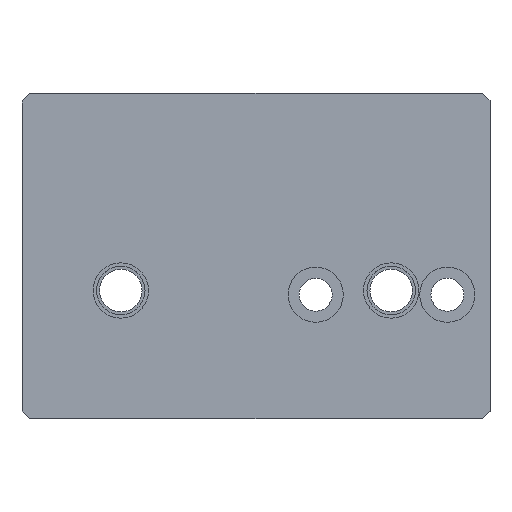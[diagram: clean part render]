
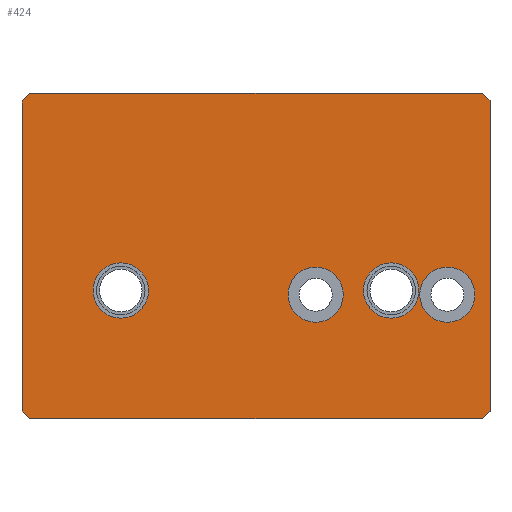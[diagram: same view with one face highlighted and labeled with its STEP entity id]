
A CAD part, top view. The second image highlights one B-rep face of the part: STEP entity #424.
In plain terms, the highlighted planar face has unit normal (0, 0, 1).
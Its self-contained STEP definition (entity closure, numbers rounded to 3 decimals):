
#21=FACE_BOUND('',#95,.T.);
#22=FACE_BOUND('',#96,.T.);
#23=FACE_BOUND('',#97,.T.);
#24=FACE_BOUND('',#98,.T.);
#36=PLANE('',#484);
#62=FACE_OUTER_BOUND('',#94,.T.);
#94=EDGE_LOOP('',(#345,#346,#347,#348,#349,#350,#351,#352));
#95=EDGE_LOOP('',(#353));
#96=EDGE_LOOP('',(#354));
#97=EDGE_LOOP('',(#355));
#98=EDGE_LOOP('',(#356));
#123=LINE('',#695,#157);
#125=LINE('',#699,#159);
#126=LINE('',#701,#160);
#127=LINE('',#703,#161);
#128=LINE('',#705,#162);
#129=LINE('',#707,#163);
#130=LINE('',#709,#164);
#131=LINE('',#710,#165);
#157=VECTOR('',#581,10.);
#159=VECTOR('',#585,10.);
#160=VECTOR('',#586,10.);
#161=VECTOR('',#587,10.);
#162=VECTOR('',#588,10.);
#163=VECTOR('',#589,10.);
#164=VECTOR('',#590,10.);
#165=VECTOR('',#591,10.);
#183=CIRCLE('',#454,3.563);
#185=CIRCLE('',#458,3.563);
#191=CIRCLE('',#469,3.575);
#197=CIRCLE('',#480,3.575);
#203=VERTEX_POINT('',#635);
#205=VERTEX_POINT('',#642);
#211=VERTEX_POINT('',#662);
#217=VERTEX_POINT('',#682);
#221=VERTEX_POINT('',#692);
#222=VERTEX_POINT('',#694);
#223=VERTEX_POINT('',#698);
#224=VERTEX_POINT('',#700);
#225=VERTEX_POINT('',#702);
#226=VERTEX_POINT('',#704);
#227=VERTEX_POINT('',#706);
#228=VERTEX_POINT('',#708);
#241=EDGE_CURVE('',#203,#203,#183,.T.);
#244=EDGE_CURVE('',#205,#205,#185,.T.);
#253=EDGE_CURVE('',#211,#211,#191,.T.);
#262=EDGE_CURVE('',#217,#217,#197,.T.);
#267=EDGE_CURVE('',#221,#222,#123,.T.);
#269=EDGE_CURVE('',#223,#221,#125,.T.);
#270=EDGE_CURVE('',#224,#223,#126,.T.);
#271=EDGE_CURVE('',#225,#224,#127,.T.);
#272=EDGE_CURVE('',#226,#225,#128,.T.);
#273=EDGE_CURVE('',#227,#226,#129,.T.);
#274=EDGE_CURVE('',#228,#227,#130,.T.);
#275=EDGE_CURVE('',#222,#228,#131,.T.);
#345=ORIENTED_EDGE('',*,*,#267,.F.);
#346=ORIENTED_EDGE('',*,*,#269,.F.);
#347=ORIENTED_EDGE('',*,*,#270,.F.);
#348=ORIENTED_EDGE('',*,*,#271,.F.);
#349=ORIENTED_EDGE('',*,*,#272,.F.);
#350=ORIENTED_EDGE('',*,*,#273,.F.);
#351=ORIENTED_EDGE('',*,*,#274,.F.);
#352=ORIENTED_EDGE('',*,*,#275,.F.);
#353=ORIENTED_EDGE('',*,*,#241,.T.);
#354=ORIENTED_EDGE('',*,*,#244,.T.);
#355=ORIENTED_EDGE('',*,*,#253,.T.);
#356=ORIENTED_EDGE('',*,*,#262,.T.);
#424=ADVANCED_FACE('',(#62,#21,#22,#23,#24),#36,.T.);
#454=AXIS2_PLACEMENT_3D('',#636,#511,#512);
#458=AXIS2_PLACEMENT_3D('',#643,#520,#521);
#469=AXIS2_PLACEMENT_3D('',#663,#545,#546);
#480=AXIS2_PLACEMENT_3D('',#683,#570,#571);
#484=AXIS2_PLACEMENT_3D('',#697,#583,#584);
#511=DIRECTION('center_axis',(0.,0.,-1.));
#512=DIRECTION('ref_axis',(0.,1.,0.));
#520=DIRECTION('center_axis',(0.,0.,-1.));
#521=DIRECTION('ref_axis',(0.,1.,0.));
#545=DIRECTION('center_axis',(0.,0.,-1.));
#546=DIRECTION('ref_axis',(0.,1.,0.));
#570=DIRECTION('center_axis',(0.,0.,-1.));
#571=DIRECTION('ref_axis',(0.,1.,0.));
#581=DIRECTION('',(0.707,-0.707,0.));
#583=DIRECTION('center_axis',(0.,0.,1.));
#584=DIRECTION('ref_axis',(0.,1.,0.));
#585=DIRECTION('',(1.,0.,0.));
#586=DIRECTION('',(0.707,0.707,0.));
#587=DIRECTION('',(0.,1.,0.));
#588=DIRECTION('',(-0.707,0.707,0.));
#589=DIRECTION('',(-1.,0.,0.));
#590=DIRECTION('',(-0.707,-0.707,0.));
#591=DIRECTION('',(0.,-1.,0.));
#635=CARTESIAN_POINT('',(22.5,-54.563,8.84));
#636=CARTESIAN_POINT('Origin',(22.5,-51.,8.84));
#642=CARTESIAN_POINT('',(5.5,-54.563,8.84));
#643=CARTESIAN_POINT('Origin',(5.5,-51.,8.84));
#662=CARTESIAN_POINT('',(15.25,-54.033,8.84));
#663=CARTESIAN_POINT('Origin',(15.25,-50.458,8.84));
#682=CARTESIAN_POINT('',(-19.65,-54.033,8.84));
#683=CARTESIAN_POINT('Origin',(-19.65,-50.458,8.84));
#692=CARTESIAN_POINT('',(27.,-25.,8.84));
#694=CARTESIAN_POINT('',(28.,-26.,8.84));
#695=CARTESIAN_POINT('',(26.513,-24.513,8.84));
#697=CARTESIAN_POINT('Origin',(-2.2,-51.25,8.84));
#698=CARTESIAN_POINT('',(-31.4,-25.,8.84));
#699=CARTESIAN_POINT('',(-2.2,-25.,8.84));
#700=CARTESIAN_POINT('',(-32.4,-26.,8.84));
#701=CARTESIAN_POINT('',(-30.913,-24.513,8.84));
#702=CARTESIAN_POINT('',(-32.4,-66.,8.84));
#703=CARTESIAN_POINT('',(-32.4,-51.25,8.84));
#704=CARTESIAN_POINT('',(-31.4,-67.,8.84));
#705=CARTESIAN_POINT('',(-27.788,-70.613,8.84));
#706=CARTESIAN_POINT('',(27.,-67.,8.84));
#707=CARTESIAN_POINT('',(-2.2,-67.,8.84));
#708=CARTESIAN_POINT('',(28.,-66.,8.84));
#709=CARTESIAN_POINT('',(23.388,-70.613,8.84));
#710=CARTESIAN_POINT('',(28.,-51.25,8.84));
